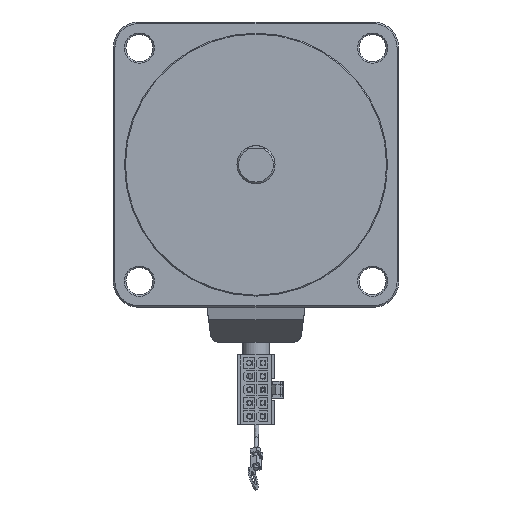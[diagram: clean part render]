
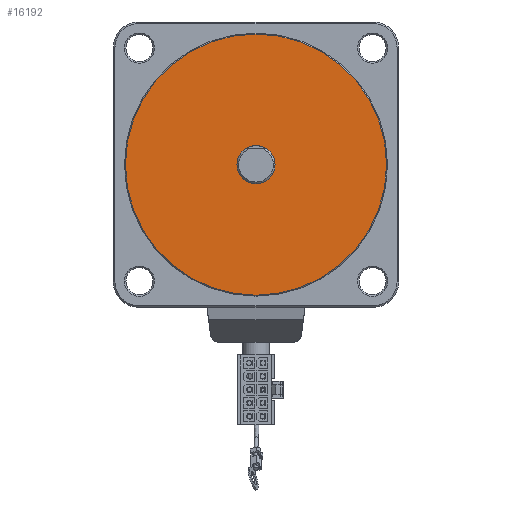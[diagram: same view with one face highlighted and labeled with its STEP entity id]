
A CAD part, front view. The second image highlights one B-rep face of the part: STEP entity #16192.
In plain terms, the highlighted planar face has unit normal (0, -1, 0).
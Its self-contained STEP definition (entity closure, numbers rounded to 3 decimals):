
#2372 = FACE_OUTER_BOUND ( 'NONE', #12132, .T. ) ;
#2523 = CARTESIAN_POINT ( 'NONE',  ( 41.2, -2., 0. ) ) ;
#3873 = DIRECTION ( 'NONE',  ( -1., 0., 0. ) ) ;
#4366 = CIRCLE ( 'NONE', #11616, 41.2 ) ;
#4722 = ORIENTED_EDGE ( 'NONE', *, *, #18737, .F. ) ;
#5574 = CIRCLE ( 'NONE', #19539, 6. ) ;
#8758 = DIRECTION ( 'NONE',  ( 0., 1., 0. ) ) ;
#8762 = ORIENTED_EDGE ( 'NONE', *, *, #16707, .F. ) ;
#10663 = EDGE_LOOP ( 'NONE', ( #20181, #20463 ) ) ;
#11616 = AXIS2_PLACEMENT_3D ( 'NONE', #27645, #12898, #24884 ) ;
#11879 = VERTEX_POINT ( 'NONE', #23906 ) ;
#12132 = EDGE_LOOP ( 'NONE', ( #8762, #4722 ) ) ;
#12273 = FACE_BOUND ( 'NONE', #10663, .T. ) ;
#12898 = DIRECTION ( 'NONE',  ( 0., 1., 0. ) ) ;
#13084 = CARTESIAN_POINT ( 'NONE',  ( 0., -2., 0. ) ) ;
#13304 = CARTESIAN_POINT ( 'NONE',  ( 6., -2., 0. ) ) ;
#13958 = DIRECTION ( 'NONE',  ( 0., 1., 0. ) ) ;
#16192 = ADVANCED_FACE ( 'NONE', ( #2372, #12273 ), #22145, .F. ) ;
#16707 = EDGE_CURVE ( 'NONE', #11879, #18132, #4366, .T. ) ;
#17478 = AXIS2_PLACEMENT_3D ( 'NONE', #13084, #27999, #23101 ) ;
#18132 = VERTEX_POINT ( 'NONE', #2523 ) ;
#18318 = CIRCLE ( 'NONE', #21427, 41.2 ) ;
#18664 = VERTEX_POINT ( 'NONE', #13304 ) ;
#18737 = EDGE_CURVE ( 'NONE', #18132, #11879, #18318, .T. ) ;
#19539 = AXIS2_PLACEMENT_3D ( 'NONE', #21382, #13958, #23822 ) ;
#20181 = ORIENTED_EDGE ( 'NONE', *, *, #24934, .T. ) ;
#20463 = ORIENTED_EDGE ( 'NONE', *, *, #27664, .T. ) ;
#21382 = CARTESIAN_POINT ( 'NONE',  ( 0., -2., 0. ) ) ;
#21427 = AXIS2_PLACEMENT_3D ( 'NONE', #28682, #8758, #3873 ) ;
#22145 = PLANE ( 'NONE',  #26611 ) ;
#22313 = CARTESIAN_POINT ( 'NONE',  ( 0., -2., 0. ) ) ;
#23101 = DIRECTION ( 'NONE',  ( -1., 0., 0. ) ) ;
#23822 = DIRECTION ( 'NONE',  ( -1., 0., 0. ) ) ;
#23906 = CARTESIAN_POINT ( 'NONE',  ( -41.2, -2., 0. ) ) ;
#24758 = DIRECTION ( 'NONE',  ( 0., 1., 0. ) ) ;
#24884 = DIRECTION ( 'NONE',  ( -1., 0., 0. ) ) ;
#24934 = EDGE_CURVE ( 'NONE', #26650, #18664, #25766, .T. ) ;
#25766 = CIRCLE ( 'NONE', #17478, 6. ) ;
#26483 = CARTESIAN_POINT ( 'NONE',  ( -6., -2., 0. ) ) ;
#26611 = AXIS2_PLACEMENT_3D ( 'NONE', #22313, #24758, #29956 ) ;
#26650 = VERTEX_POINT ( 'NONE', #26483 ) ;
#27645 = CARTESIAN_POINT ( 'NONE',  ( 0., -2., 0. ) ) ;
#27664 = EDGE_CURVE ( 'NONE', #18664, #26650, #5574, .T. ) ;
#27999 = DIRECTION ( 'NONE',  ( 0., 1., 0. ) ) ;
#28682 = CARTESIAN_POINT ( 'NONE',  ( 0., -2., 0. ) ) ;
#29956 = DIRECTION ( 'NONE',  ( 1., 0., 0. ) ) ;
